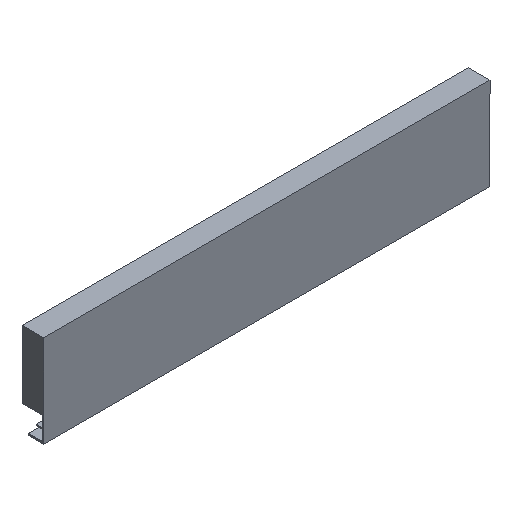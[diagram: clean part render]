
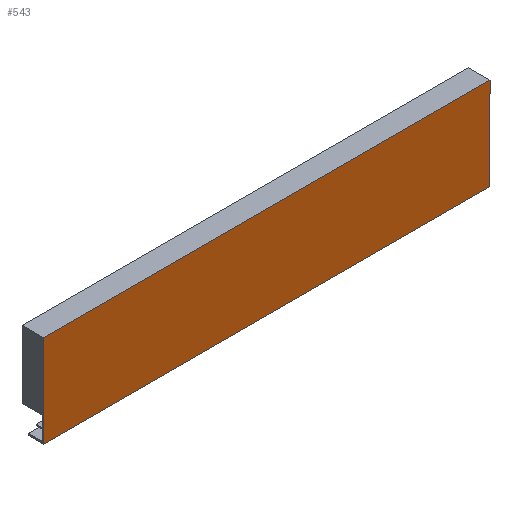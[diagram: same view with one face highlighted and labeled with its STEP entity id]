
A CAD part, isometric view. The second image highlights one B-rep face of the part: STEP entity #543.
In plain terms, the highlighted planar face has unit normal (0, -1, 0).
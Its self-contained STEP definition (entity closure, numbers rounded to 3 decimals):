
#2 = VERTEX_POINT ( 'NONE', #229 ) ;
#21 = VERTEX_POINT ( 'NONE', #38 ) ;
#22 = VERTEX_POINT ( 'NONE', #39 ) ;
#38 = CARTESIAN_POINT ( 'NONE',  ( -163.5, -5.5, -17.9 ) ) ;
#39 = CARTESIAN_POINT ( 'NONE',  ( 163.5, -5.5, 49.7 ) ) ;
#49 = CARTESIAN_POINT ( 'NONE',  ( 163.5, -5.5, -17.9 ) ) ;
#68 = CARTESIAN_POINT ( 'NONE',  ( -163.5, -5.5, -17.9 ) ) ;
#74 = DIRECTION ( 'NONE',  ( 0., 0., 1. ) ) ;
#90 = CARTESIAN_POINT ( 'NONE',  ( 163.5, -5.5, -17.9 ) ) ;
#105 = DIRECTION ( 'NONE',  ( 0., 0., 1. ) ) ;
#121 = CARTESIAN_POINT ( 'NONE',  ( -163.5, -5.5, -17.9 ) ) ;
#122 = DIRECTION ( 'NONE',  ( 1., 0., 0. ) ) ;
#137 = CARTESIAN_POINT ( 'NONE',  ( -163.5, -5.5, 49.7 ) ) ;
#138 = DIRECTION ( 'NONE',  ( 1., 0., 0. ) ) ;
#187 = PLANE ( 'NONE',  #506 ) ;
#190 = CARTESIAN_POINT ( 'NONE',  ( -163.5, -5.5, -17.9 ) ) ;
#196 = DIRECTION ( 'NONE',  ( 0., 1., 0. ) ) ;
#197 = DIRECTION ( 'NONE',  ( 0., 0., -1. ) ) ;
#229 = CARTESIAN_POINT ( 'NONE',  ( -163.5, -5.5, 49.7 ) ) ;
#235 = VERTEX_POINT ( 'NONE', #49 ) ;
#250 = VECTOR ( 'NONE', #74, 1000. ) ;
#257 = LINE ( 'NONE', #68, #250 ) ;
#338 = ORIENTED_EDGE ( 'NONE', *, *, #512, .T. ) ;
#339 = ORIENTED_EDGE ( 'NONE', *, *, #469, .F. ) ;
#340 = ORIENTED_EDGE ( 'NONE', *, *, #525, .F. ) ;
#341 = ORIENTED_EDGE ( 'NONE', *, *, #496, .T. ) ;
#372 = EDGE_LOOP ( 'NONE', ( #341, #340, #339, #338 ) ) ;
#395 = LINE ( 'NONE', #90, #397 ) ;
#397 = VECTOR ( 'NONE', #105, 1000. ) ;
#413 = LINE ( 'NONE', #121, #414 ) ;
#414 = VECTOR ( 'NONE', #122, 1000. ) ;
#425 = LINE ( 'NONE', #137, #426 ) ;
#426 = VECTOR ( 'NONE', #138, 1000. ) ;
#444 = FACE_OUTER_BOUND ( 'NONE', #372, .T. ) ;
#469 = EDGE_CURVE ( 'NONE', #21, #2, #257, .T. ) ;
#496 = EDGE_CURVE ( 'NONE', #235, #22, #395, .T. ) ;
#506 = AXIS2_PLACEMENT_3D ( 'NONE', #190, #196, #197 ) ;
#512 = EDGE_CURVE ( 'NONE', #21, #235, #413, .T. ) ;
#525 = EDGE_CURVE ( 'NONE', #2, #22, #425, .T. ) ;
#543 = ADVANCED_FACE ( 'NONE', ( #444 ), #187, .F. ) ;
